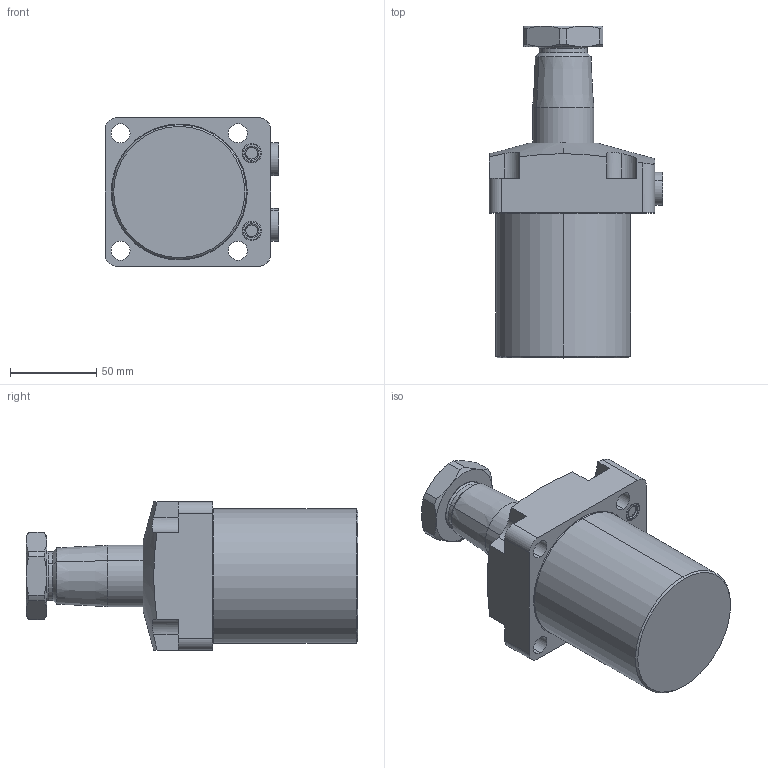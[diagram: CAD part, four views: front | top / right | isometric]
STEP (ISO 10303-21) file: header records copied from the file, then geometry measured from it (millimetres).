
FILE_DESCRIPTION(/* description */ (''),/* implementation_level */ '2;1');
FILE_NAME(/* name */ 'TRC16-RN30.stp',/* time_stamp */ '2025-01-04T09:32:34+08:00',/* author */ (''),/* organization */ (''),/* preprocessor_version */ 'ST-DEVELOPER v16.7',/* originating_system */ 'SIEMENS PLM Software NX 12.0',/* authorisation */ '');
FILE_SCHEMA (('AUTOMOTIVE_DESIGN { 1 0 10303 214 3 1 1 1 }'));
Length unit declared in the file: millimetre
Products named in the file (5): TRC16-RN30-04; TRC16-RN30-03; TRC16-RN30-02; TRC16-RN30-01; TRC16-RN30_stp
Assembly tree (5 placements, depth 2):
  TRC16-RN30_stp
    TRC16-RN30-01
    TRC16-RN30-02
    TRC16-RN30-03
    TRC16-RN30-04  x2
Bounding box: 100.8 x 192.3 x 86 mm (x, y, z)
Volume: 729489.2 mm3; surface area: 72586.8 mm2
Topology: 5 solids, 7 shells, 203 faces, 465 edges, 288 vertices
Faces by surface type: cylinder 73, plane 67, cone 40, torus 22, sphere 1
Entity records: 5416 total; most frequent: CARTESIAN_POINT 1092, DIRECTION 938, ORIENTED_EDGE 836, EDGE_CURVE 418, AXIS2_PLACEMENT_3D 386, VERTEX_POINT 260, EDGE_LOOP 206, CIRCLE 199
